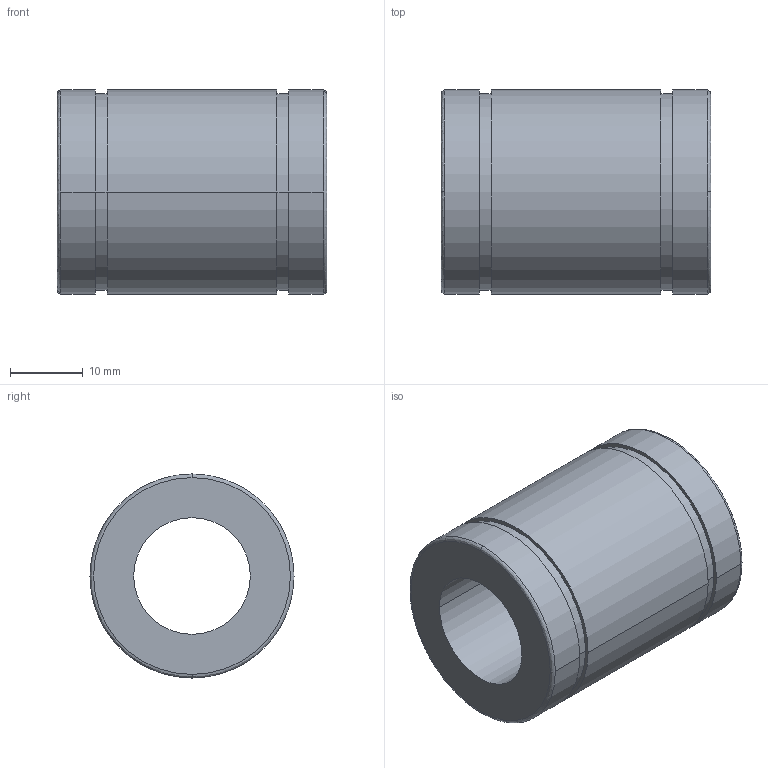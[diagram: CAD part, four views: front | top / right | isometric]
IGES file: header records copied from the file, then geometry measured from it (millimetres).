
Start section: 3D InterOp IGES (Version 21 0 1), Spatial Corp. Copyright (c) 1999-2007.
Global section: file name: N-16UU.igs; native system: Spatial Corp.; preprocessor: 3D InterOp GENERIC/IGES 3.0; author: Noname; organization: Noname; date: 20220311.145030; units: millimetre
Bounding box: 37 x 28 x 28 mm (x, y, z)
Surface area: 6068.7 mm2 (no closed solid volume)
Topology: 0 solids, 0 shells, 22 faces, 100 edges, 100 vertices
Faces by surface type: revolution 16, extrusion 6
